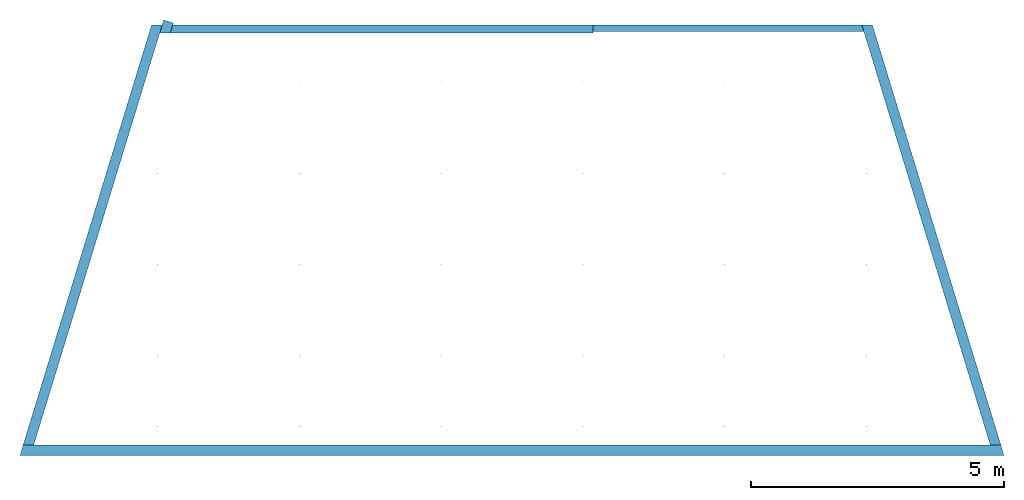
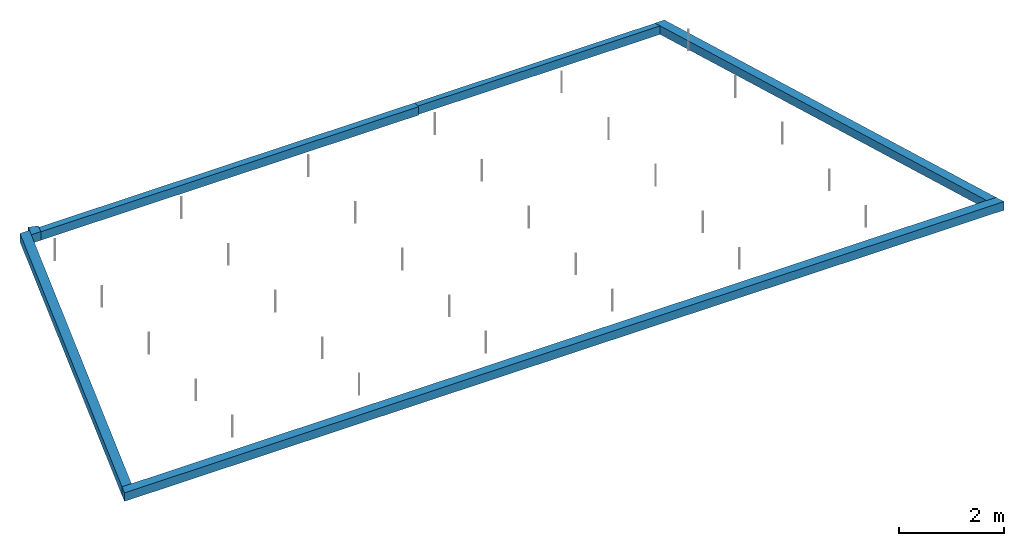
# One storey, part 1 of 23: 6 walls, 1 opening.
"""IFC2X3 building model written with IfcOpenShell, lengths in millimetres."""

from ifc_helpers import new_model, entity, si_unit, converted_unit, derived_unit, direction, frame, frame_2d, origin, origin_with_axes, place, context, subcontext, project, spatial, polyline, rectangle, outline, extrude, clip, halfspace, faceted_brep, material, layer, layer_set, layer_usage, type_object, element, save


model = new_model("IFC2X3")

# Units and contexts
model_context = context("Model", 3, precision=0.01, world=frame((0.0, 4.29681676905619e-09, 0.0)), true_north=direction((4.01073788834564e-13, 1.0)))
plan_context = context("Plan", 3, precision=0.01, world=frame((0.0, 4.29681676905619e-09, 0.0)), true_north=direction((4.01073788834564e-13, 1.0)))
body_context = subcontext(model_context, "Body", "Model", "MODEL_VIEW")
ifc_project = project(units=[converted_unit("PLANEANGLEUNIT", "DEGREE", entity("IfcPositiveLengthMeasure", 0.0174532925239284), si_unit("PLANEANGLEUNIT", "RADIAN"), dimensions=[0, 0, 0, 0, 0, 0, 0]), si_unit("AREAUNIT", "SQUARE_METRE"), si_unit("LENGTHUNIT", "METRE", prefix="MILLI"), si_unit("MASSUNIT", "GRAM", prefix="KILO"), si_unit("POWERUNIT", "WATT"), si_unit("PRESSUREUNIT", "PASCAL", prefix="KILO"), si_unit("FORCEUNIT", "NEWTON", prefix="KILO"), si_unit("ELECTRICVOLTAGEUNIT", "VOLT"), si_unit("ELECTRICCURRENTUNIT", "AMPERE"), si_unit("THERMODYNAMICTEMPERATUREUNIT", "DEGREE_CELSIUS"), si_unit("TIMEUNIT", "SECOND"), si_unit("VOLUMEUNIT", "CUBIC_METRE"), derived_unit("LINEARVELOCITYUNIT", [(si_unit("LENGTHUNIT", "METRE"), 1), (si_unit("TIMEUNIT", "SECOND"), -1)]), derived_unit("VOLUMETRICFLOWRATEUNIT", [(si_unit("VOLUMEUNIT", "CUBIC_METRE"), 1), (si_unit("TIMEUNIT", "SECOND"), -1)]), derived_unit("THERMALTRANSMITTANCEUNIT", [(si_unit("POWERUNIT", "WATT"), 1), (si_unit("THERMODYNAMICTEMPERATUREUNIT", "KELVIN"), -1), (si_unit("AREAUNIT", "SQUARE_METRE"), -1)]), derived_unit("SOUNDPRESSUREUNIT", [(si_unit("PRESSUREUNIT", "PASCAL"), 1)])], contexts=[model_context, plan_context])

# Site, building, storey
site_placement = place(None, origin_with_axes())
site = spatial("IfcSite", under=ifc_project, at=site_placement, Name="ENGM", CompositionType="ELEMENT")
building_placement = place(site_placement, origin_with_axes())
building = spatial("IfcBuilding", under=site, at=building_placement, Name="TI", CompositionType="ELEMENT")
storey_placement = place(building_placement, frame((0.0, 0.0, 213700.0), z_axis=(0.0, 0.0, 1.0), x_axis=(1.0, 0.0, 0.0)))
storey = spatial("IfcBuildingStorey", under=building, at=storey_placement, Name="Nivå G - 2,0m", CompositionType="ELEMENT", Elevation=213700.0)

# Wall
ifc_material_1 = material(Name="Plate - Gips")
ifc_layer_1 = layer(ifc_material_1, 13.0)
ifc_material_2 = material(Name="_NSW X-finer")
ifc_layer_2 = layer(ifc_material_2, 12.0)
ifc_material_3 = material(Name="_NSW Stålstender, uisolert")
ifc_layer_3 = layer(ifc_material_3, 100.0)
ifc_layer_4 = layer(ifc_material_2, 12.0)
ifc_layer_5 = layer(ifc_material_1, 13.0)
ifc_layer_set_1 = layer_set([ifc_layer_1, ifc_layer_2, ifc_layer_3, ifc_layer_4, ifc_layer_5], Name="Basic Wall:A241 - SXVXS-100")
ifc_layer_usage_1 = layer_usage(ifc_layer_set_1, "AXIS2", "NEGATIVE", 75.0)
wall_type_1 = type_object("IfcWallType", Name="Basic Wall:A241 - SXVXS-100", PredefinedType="STANDARD", material=ifc_layer_set_1)
wall_1_placement = place(storey_placement, frame((585251.989347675, 578152.499999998, 0.0), z_axis=(0.0, 0.0, 1.0), x_axis=(1.0, 0.0, 0.0)))
element("IfcWallStandardCase", 1, at=wall_1_placement, inside=storey, type_object=wall_type_1, material=ifc_layer_usage_1, Name="Basic Wall:A241 - SXVXS-100", ObjectType="Basic Wall:A241 - SXVXS-100", context=body_context, shape_type="Clipping", body=[
    clip(extrude(outline(polyline([(8348.01065232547, -75.0), (8348.01065232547, 75.0), (45.8596024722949, 75.0), (0.0, -75.0), (8348.01065232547, -75.0)])), origin(), (0.0, 0.0, 1.0), 198.000000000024), halfspace(frame((0.0, 0.0, -2800.0)), True)),
])

# Wall, opening
ifc_material_4 = material(Name="T2 - Stål")
ifc_layer_6 = layer(ifc_material_4, 200.0)
ifc_layer_set_2 = layer_set([ifc_layer_6], Name="Basic Wall:A245 - Butikkfasader bjelke/kasse")
ifc_layer_usage_2 = layer_usage(ifc_layer_set_2, "AXIS2", "NEGATIVE", 100.0)
wall_type_2 = type_object("IfcWallType", Name="Basic Wall:A245 - Butikkfasader bjelke/kasse", PredefinedType="STANDARD", material=ifc_layer_set_2)
wall_2_placement = place(storey_placement, frame((601718.374232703, 569829.999999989, 0.0), z_axis=(0.0, 0.0, 1.0), x_axis=(-1.0, 0.0, 0.0)))
wall_2 = element("IfcWallStandardCase", 2, at=wall_2_placement, inside=storey, type_object=wall_type_2, material=ifc_layer_usage_2, Name="Basic Wall:A245 - Butikkfasader bjelke/kasse", ObjectType="Basic Wall:A245 - Butikkfasader bjelke/kasse", context=body_context, shape_type="Clipping", body=[
    clip(extrude(outline(polyline([(19375.6023287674, -100.0), (19436.7484653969, 100.0), (0.0, 100.0), (61.1461366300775, -100.0), (270.284488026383, -100.0), (19166.4639773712, -100.0), (19375.6023287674, -100.0)])), origin(), (0.0, 0.0, 1.0), 200.000000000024), halfspace(frame((0.0, 0.0, -2800.0)), True)),
])
opening_placement = place(wall_2_placement, frame((601718.374232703, 569829.999999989, -2800.0), z_axis=(0.0, 0.0, 1.0), x_axis=(-1.0, 0.0, 0.0)))
element("IfcOpeningElement", 3, at=opening_placement, cuts=wall_2, Name="Basic Wall:A245 - Butikkfasader bjelke/kasse", ObjectType="Opening", context=body_context, shape_type="SweptSolid", body=[
    extrude(rectangle(XDim=2499.99999999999, YDim=4500.00000000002, at=frame_2d((0.0, 6.93489710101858e-11), x_axis=(1.0, 0.0))), frame((594250.000000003, 571453.999999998, 1250.0), z_axis=(0.0, -1.0, 0.0), x_axis=(0.0, 0.0, 1.0)), (0.0, 0.0, 1.0), 3048.0),
])

# Walls
wall_3_placement = place(storey_placement, frame((587737.019661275, 587231.758944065, 0.0), z_axis=(0.0, 0.0, 1.0), x_axis=(-0.292371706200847, -0.956304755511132, 0.0)))
element("IfcWall", 4, at=wall_3_placement, inside=storey, type_object=wall_type_2, Name="Basic Wall:A245 - Butikkfasader bjelke/kasse", ObjectType="Basic Wall:A245 - Butikkfasader bjelke/kasse", context=body_context, shape_type="Brep", body=[
    faceted_brep([(9446.25242385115, -100.0, 0.0), (9446.25242385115, -100.0, 200.000000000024), (18122.8797773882, -100.0, 200.000000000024), (18122.8797773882, -100.0, 0.0), (18061.7336407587, 100.0, 200.000000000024), (18061.7336407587, 100.0, 0.0), (9385.10628722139, 100.0, 200.000000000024), (9385.10628722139, 100.0, 0.0)], [[[0, 1, 2, 3]], [[3, 2, 4, 5]], [[6, 7, 5, 4]], [[7, 0, 3, 5]], [[1, 6, 4, 2]], [[7, 6, 1, 0]]], orient=[[False], [False], [False], [False], [False], [False]]),
])
wall_4_placement = place(storey_placement, frame((596262.980338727, 587231.758944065, 0.0), z_axis=(0.0, 0.0, 1.0), x_axis=(0.292371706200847, -0.956304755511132, 0.0)))
element("IfcWall", 5, at=wall_4_placement, inside=storey, type_object=wall_type_2, Name="Basic Wall:A245 - Butikkfasader bjelke/kasse", ObjectType="Basic Wall:A245 - Butikkfasader bjelke/kasse", context=body_context, shape_type="Brep", body=[
    faceted_brep([(9385.10628722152, -100.0, 0.0), (9385.10628722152, -100.0, 200.000000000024), (18061.7336407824, -100.0, 200.000000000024), (18061.7336407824, -100.0, 0.0), (18122.8797774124, 100.0, 200.000000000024), (18122.8797774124, 100.0, 0.0), (9446.25242385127, 100.0, 200.000000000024), (9446.25242385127, 100.0, 0.0)], [[[0, 1, 2, 3]], [[3, 2, 4, 5]], [[6, 7, 5, 4]], [[7, 0, 3, 5]], [[1, 6, 4, 2]], [[7, 6, 1, 0]]], orient=[[False], [False], [False], [False], [False], [False]]),
])
ifc_layer_7 = layer(ifc_material_1, 12.5)
ifc_layer_8 = layer(ifc_material_2, 15.0)
ifc_layer_9 = layer(ifc_material_3, 100.0)
ifc_layer_set_3 = layer_set([ifc_layer_7, ifc_layer_8, ifc_layer_9], Name="Basic Wall:A241 - SXV-100")
ifc_layer_usage_3 = layer_usage(ifc_layer_set_3, "AXIS2", "NEGATIVE", 63.75)
wall_type_3 = type_object("IfcWallType", Name="Basic Wall:A241 - SXV-100", PredefinedType="STANDARD", material=ifc_layer_set_3)
wall_5_placement = place(storey_placement, frame((593600.0, 578163.749999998, 0.0), z_axis=(0.0, 0.0, 1.0), x_axis=(1.0, 0.0, 0.0)))
element("IfcWallStandardCase", 6, at=wall_5_placement, inside=storey, type_object=wall_type_3, material=ifc_layer_usage_3, Name="Basic Wall:A241 - SXV-100", ObjectType="Basic Wall:A241 - SXV-100", context=body_context, shape_type="Clipping", body=[
    clip(extrude(outline(polyline([(5350.27006613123, -63.7499999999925), (5311.28940402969, 63.750000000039), (0.0, 63.7500000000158), (0.0, -63.7500000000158), (5350.27006613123, -63.7499999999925)])), origin(), (0.0, 0.0, 1.0), 198.000000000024), halfspace(frame((0.0, 0.0, -2800.0)), True)),
])
ifc_material_5 = material(Name="T2_Fibergips")
ifc_layer_10 = layer(ifc_material_5, 200.0)
ifc_layer_set_4 = layer_set([ifc_layer_10], Name="Basic Wall:A245 - Gipsvegg, generisk")
ifc_layer_usage_4 = layer_usage(ifc_layer_set_4, "AXIS2", "NEGATIVE", 100.0)
wall_type_4 = type_object("IfcWallType", Name="Basic Wall:A245 - Gipsvegg, generisk", PredefinedType="STANDARD", material=ifc_layer_set_4)
wall_6_placement = place(storey_placement, frame((585138.48147183, 578048.262829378, 0.0), z_axis=(0.0, 0.0, 1.0), x_axis=(0.292371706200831, 0.956304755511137, 0.0)))
element("IfcWallStandardCase", 7, at=wall_6_placement, inside=storey, type_object=wall_type_4, material=ifc_layer_usage_4, Name="Basic Wall:A245 - Gipsvegg, generisk", ObjectType="Basic Wall:A245 - Gipsvegg, generisk", context=body_context, shape_type="Clipping", body=[
    clip(extrude(outline(polyline([(263.578315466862, -100.0), (263.578315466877, 100.0), (0.0, 100.0), (61.1461366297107, -100.0), (263.578315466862, -100.0)])), origin(), (0.0, 0.0, 1.0), 200.000000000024), halfspace(frame((0.0, 0.0, -2800.0)), True)),
])

save(model, "model.ifc")
